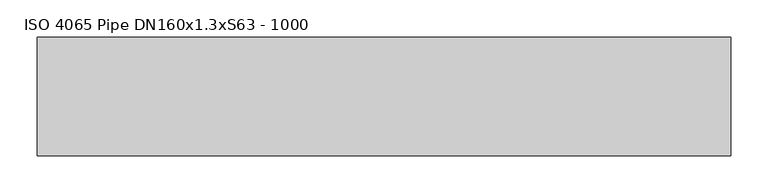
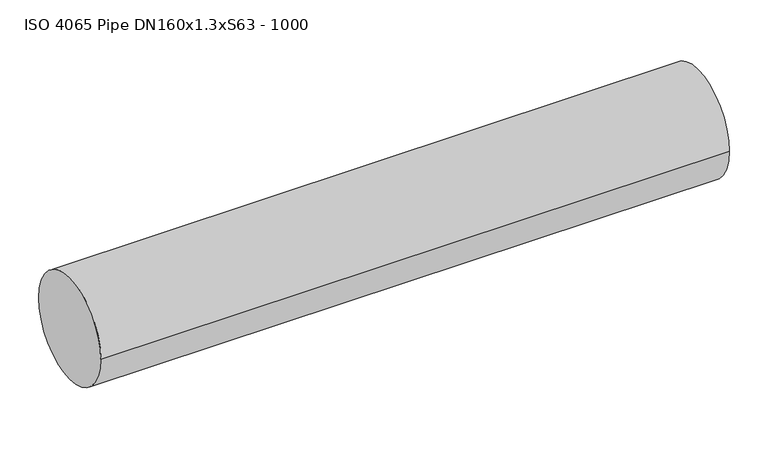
"""IFC4 building model written with IfcOpenShell, lengths in millimetres: proxy geometry, ISO 4065 Pipe DN160x1.3xS63 - 1000."""

from ifc_helpers import new_model, si_unit, frame, origin, place, context, project, spatial, circle_curve, source, transform, mapped, element, save
from ifc_brep_helpers import plane_surface, cylinder_surface, advanced_brep


def iso_4065_pipe_dn160x1_3xs63_1000_ae17d09c(model_context):
    return source(origin(), model_context, "Body", "AdvancedBrep", [
        advanced_brep(
        [(63.0, -80.0, 0.0), (1000.0, -80.0, 0.0), (1000.0, 80.0, 0.0), (63.0, 80.0, 0.0), (63.0, 0.0, -80.0)],
        [
            (0, 1),
            (1, 2, circle_curve(frame((1000.0, 0.0, 0.0), z_axis=(-1.0, 0.0, 0.0), x_axis=(0.0, -1.0, 0.0)), 80.0)),
            (2, 3),
            (3, 0, circle_curve(frame((63.0, 0.0, 0.0), z_axis=(1.0, 0.0, 0.0), x_axis=(0.0, -1.0, 0.0)), 80.0)),
            (1, 2, circle_curve(frame((1000.0, 0.0, 0.0), z_axis=(1.0, 0.0, 0.0), x_axis=(0.0, -1.0, 0.0)), 80.0)),
            (3, 4, circle_curve(frame((63.0, 0.0, 0.0), z_axis=(-1.0, 0.0, 0.0), x_axis=(0.0, -1.0, 0.0)), 80.0)),
            (4, 0, circle_curve(frame((63.0, 0.0, 0.0), z_axis=(-1.0, 0.0, 0.0), x_axis=(0.0, -1.0, 0.0)), 80.0)),
        ],
        [
            cylinder_surface(frame((0.0, 0.0, 0.0), z_axis=(1.0, 0.0, 0.0), x_axis=(0.0, -1.0, 0.0)), 80.0),
            plane_surface(frame((1000.0, 0.0, 0.0), z_axis=(1.0, 0.0, 0.0), x_axis=(0.0, 0.0, 1.0))),
            plane_surface(frame((63.0, 0.0, 0.0), z_axis=(-1.0, 0.0, 0.0), x_axis=(0.0, 0.0, -1.0))),
        ],
        [
            (0, [[1, 2, 3, 4]]),
            (1, [[5, -2]]),
            (2, [[6, 7, -4]]),
            (0, [[-1, -7, -6, -3, -5]]),
        ],
    ),
    ])


if __name__ == "__main__":
    model = new_model("IFC4")
    model_context = context("Model", 3, world=origin())
    ifc_project = project(units=[si_unit("LENGTHUNIT", "METRE", prefix="MILLI")], contexts=[model_context])
    site = spatial("IfcSite", under=ifc_project)
    building = spatial("IfcBuilding", under=site)
    placement = place(None, origin())
    iso_4065_pipe_dn160x1_3xs63_1000_shape = iso_4065_pipe_dn160x1_3xs63_1000_ae17d09c(model_context)
    element("IfcBuildingElementProxy", 1, Name="ISO 4065 Pipe DN160x1.3xS63 - 1000", ObjectType="ISO 4065 Pipe DN160x1.3xS63 - 1000", at=placement, inside=building, context=model_context, shape_type="MappedRepresentation", body=[
        mapped(iso_4065_pipe_dn160x1_3xs63_1000_shape, transform((0.0, 0.0, 0.0), x_axis=(1.0, 0.0, 0.0), y_axis=(0.0, 1.0, 0.0), z_axis=(0.0, 0.0, 1.0))),
    ])
    save(model, "model.ifc")
